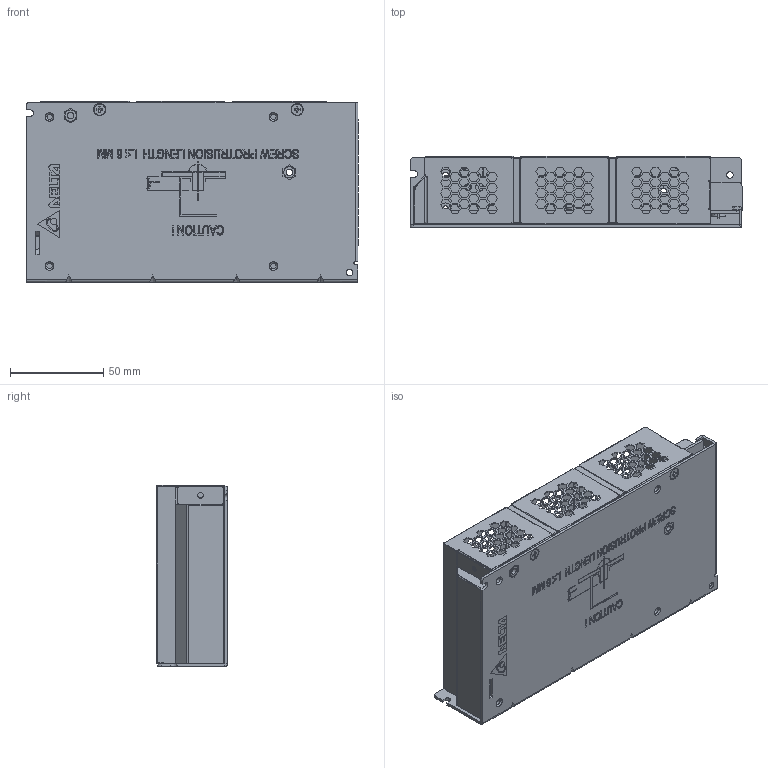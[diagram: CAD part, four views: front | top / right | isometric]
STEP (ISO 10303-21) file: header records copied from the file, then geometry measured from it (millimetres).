
FILE_DESCRIPTION((''),'2;1');
FILE_NAME('PMC-24V150W1AA_ASM','2012-04-20T',('Manop.Pr'),(''),'PRO/ENGINEER BY PARAMETRIC TECHNOLOGY CORPORATION, 2010180','PRO/ENGINEER BY PARAMETRIC TECHNOLOGY CORPORATION, 2010180','');
FILE_SCHEMA(('CONFIG_CONTROL_DESIGN','SHAPE_APPEARANCE_LAYERS_GROUPS'));
Products named in the file (16): 331606180203; 331606180203_A_STUD; 331606180203_ASM; 331606170101; 326203860203; 3268095800; 2958037704_PWB; 307049757W_A_BODY; 307049757W_A_SCREW; 307049757W_ASM; EE_LED; EE_VR; ASSY_PWB_ASM; 3100001200; 3100000400; PMC-24V150W1AA_ASM
Assembly tree (25 placements, depth 4):
  PMC-24V150W1AA_ASM
    331606180203_ASM
      331606180203
      331606180203_A_STUD  x2
    331606170101
    326203860203
    3268095800
    ASSY_PWB_ASM
      2958037704_PWB
      307049757W_ASM
        307049757W_A_BODY
        307049757W_A_SCREW  x7
      EE_LED
      EE_VR
    3100001200
    3100000400  x4
Bounding box: 178 x 38.08 x 97.05 mm (x, y, z)
Volume: 84381.4 mm3; surface area: 144068.4 mm2
Topology: 22 solids, 22 shells, 6359 faces, 17391 edges, 10841 vertices
Faces by surface type: plane 4727, cylinder 592, bspline 460, extrusion 412, cone 138, torus 28, sphere 2
Entity records: 233950 total; most frequent: CARTESIAN_POINT 43917, ORIENTED_EDGE 30806, DIRECTION 25323, PRESENTATION_STYLE_ASSIGNMENT 15706, STYLED_ITEM 15417, CURVE_STYLE 15403, EDGE_CURVE 15403, VECTOR 13741
